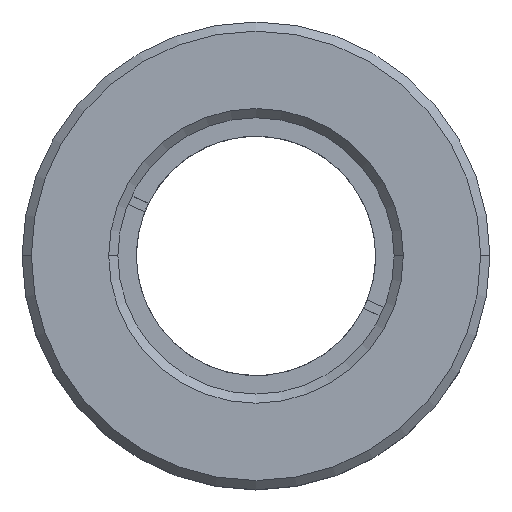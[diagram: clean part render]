
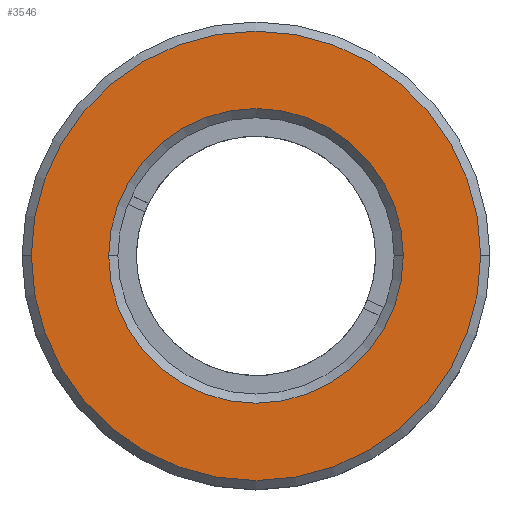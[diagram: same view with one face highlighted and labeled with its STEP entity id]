
A CAD part, top view. The second image highlights one B-rep face of the part: STEP entity #3546.
In plain terms, the highlighted planar face has unit normal (0, 0, 1).
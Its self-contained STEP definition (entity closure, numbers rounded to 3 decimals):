
#218 = CIRCLE ( 'NONE', #1855, 24.4 ) ;
#528 = DIRECTION ( 'NONE',  ( 0., 0., -1. ) ) ;
#784 = DIRECTION ( 'NONE',  ( 1., 0., 0. ) ) ;
#979 = CARTESIAN_POINT ( 'NONE',  ( -8.119, -2.293, 59.5 ) ) ;
#994 = CIRCLE ( 'NONE', #4810, 16. ) ;
#1048 = EDGE_LOOP ( 'NONE', ( #1505, #1118 ) ) ;
#1053 = DIRECTION ( 'NONE',  ( 1., 0., 0. ) ) ;
#1118 = ORIENTED_EDGE ( 'NONE', *, *, #4626, .T. ) ;
#1137 = AXIS2_PLACEMENT_3D ( 'NONE', #1327, #6171, #784 ) ;
#1283 = VERTEX_POINT ( 'NONE', #5349 ) ;
#1296 = DIRECTION ( 'NONE',  ( 0., 0., 1. ) ) ;
#1327 = CARTESIAN_POINT ( 'NONE',  ( -8.119, -2.293, 59.5 ) ) ;
#1433 = DIRECTION ( 'NONE',  ( 1., 0., 0. ) ) ;
#1447 = FACE_OUTER_BOUND ( 'NONE', #2325, .T. ) ;
#1505 = ORIENTED_EDGE ( 'NONE', *, *, #6108, .T. ) ;
#1848 = AXIS2_PLACEMENT_3D ( 'NONE', #1898, #1296, #6491 ) ;
#1855 = AXIS2_PLACEMENT_3D ( 'NONE', #2937, #3042, #1433 ) ;
#1898 = CARTESIAN_POINT ( 'NONE',  ( -8.119, -2.293, 59.5 ) ) ;
#2325 = EDGE_LOOP ( 'NONE', ( #6112, #6275 ) ) ;
#2334 = VERTEX_POINT ( 'NONE', #5380 ) ;
#2937 = CARTESIAN_POINT ( 'NONE',  ( -8.119, -2.293, 59.5 ) ) ;
#3042 = DIRECTION ( 'NONE',  ( 0., 0., 1. ) ) ;
#3390 = AXIS2_PLACEMENT_3D ( 'NONE', #4599, #528, #1053 ) ;
#3546 = ADVANCED_FACE ( 'NONE', ( #4069, #1447 ), #5459, .T. ) ;
#3650 = VERTEX_POINT ( 'NONE', #6335 ) ;
#4069 = FACE_BOUND ( 'NONE', #1048, .T. ) ;
#4599 = CARTESIAN_POINT ( 'NONE',  ( -8.119, -2.293, 59.5 ) ) ;
#4626 = EDGE_CURVE ( 'NONE', #3650, #5119, #6548, .T. ) ;
#4810 = AXIS2_PLACEMENT_3D ( 'NONE', #979, #5145, #5079 ) ;
#5079 = DIRECTION ( 'NONE',  ( 1., 0., 0. ) ) ;
#5119 = VERTEX_POINT ( 'NONE', #6733 ) ;
#5145 = DIRECTION ( 'NONE',  ( 0., 0., -1. ) ) ;
#5344 = EDGE_CURVE ( 'NONE', #1283, #2334, #218, .T. ) ;
#5349 = CARTESIAN_POINT ( 'NONE',  ( -32.519, -2.293, 59.5 ) ) ;
#5380 = CARTESIAN_POINT ( 'NONE',  ( 16.281, -2.293, 59.5 ) ) ;
#5459 = PLANE ( 'NONE',  #1137 ) ;
#6002 = CIRCLE ( 'NONE', #1848, 24.4 ) ;
#6067 = EDGE_CURVE ( 'NONE', #2334, #1283, #6002, .T. ) ;
#6108 = EDGE_CURVE ( 'NONE', #5119, #3650, #994, .T. ) ;
#6112 = ORIENTED_EDGE ( 'NONE', *, *, #5344, .T. ) ;
#6171 = DIRECTION ( 'NONE',  ( 0., 0., 1. ) ) ;
#6275 = ORIENTED_EDGE ( 'NONE', *, *, #6067, .T. ) ;
#6335 = CARTESIAN_POINT ( 'NONE',  ( -24.119, -2.293, 59.5 ) ) ;
#6491 = DIRECTION ( 'NONE',  ( 1., 0., 0. ) ) ;
#6548 = CIRCLE ( 'NONE', #3390, 16. ) ;
#6733 = CARTESIAN_POINT ( 'NONE',  ( 7.881, -2.293, 59.5 ) ) ;
